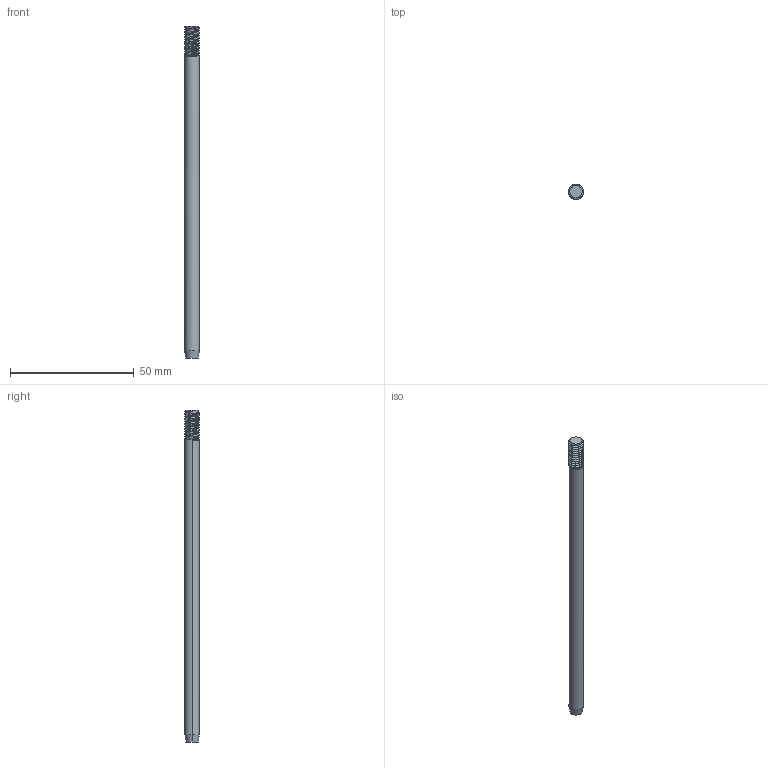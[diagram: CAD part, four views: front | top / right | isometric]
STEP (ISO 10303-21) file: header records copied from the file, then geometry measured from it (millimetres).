
FILE_DESCRIPTION (( 'STEP AP203' ), '1' );
FILE_NAME ('013.100.059_ESEMPIO.STEP', '2021-10-20T12:21:12', ( '' ), ( '' ), 'SwSTEP 2.0', 'SolidWorks 2018', '' );
FILE_SCHEMA (( 'CONFIG_CONTROL_DESIGN' ));
Length unit declared in the file: millimetre
Products named in the file (1): 013.100.059_ESEMPIO
Bounding box: 6.08 x 6.08 x 134 mm (x, y, z)
Volume: 3720 mm3; surface area: 2673.4 mm2
Topology: 1 solids, 1 shells, 38 faces, 100 edges, 64 vertices
Faces by surface type: cylinder 28, plane 5, bspline 3, cone 2
Entity records: 3017 total; most frequent: CARTESIAN_POINT 2162, ORIENTED_EDGE 200, DIRECTION 129, EDGE_CURVE 100, VERTEX_POINT 64, AXIS2_PLACEMENT_3D 46, ADVANCED_FACE 38, FACE_OUTER_BOUND 38
